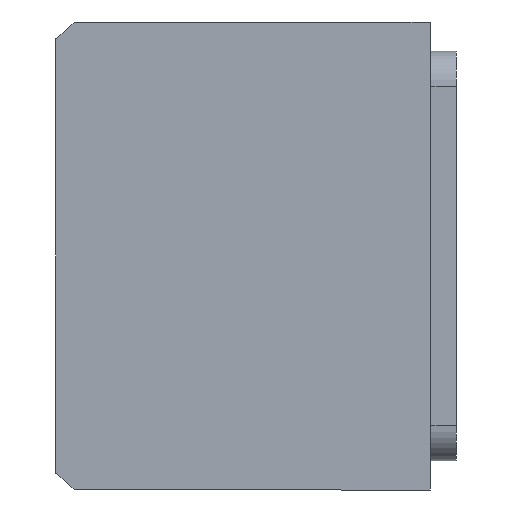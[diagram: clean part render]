
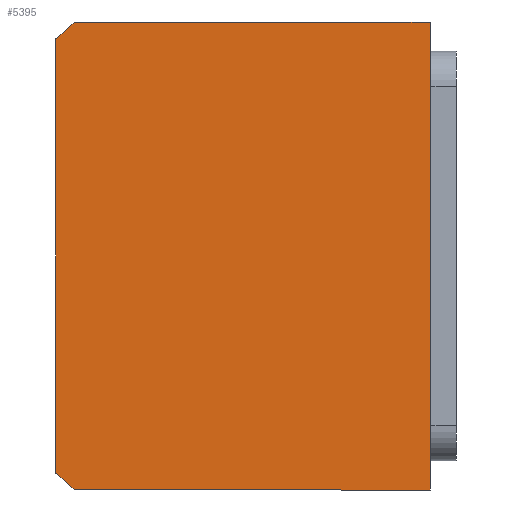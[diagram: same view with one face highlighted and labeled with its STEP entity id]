
A CAD part, front view. The second image highlights one B-rep face of the part: STEP entity #5395.
In plain terms, the highlighted planar face has unit normal (0, -1, 0) as drawn and (0, 0, -1) by its records, which use the part's own axes.
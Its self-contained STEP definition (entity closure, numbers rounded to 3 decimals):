
#133 = VERTEX_POINT ( 'NONE', #8797 ) ;
#223 = VECTOR ( 'NONE', #2976, 1000. ) ;
#392 = AXIS2_PLACEMENT_3D ( 'NONE', #1961, #7457, #2747 ) ;
#514 = CARTESIAN_POINT ( 'NONE',  ( -40., -11.507, 0. ) ) ;
#957 = CARTESIAN_POINT ( 'NONE',  ( 0., 0., 0. ) ) ;
#1123 = ORIENTED_EDGE ( 'NONE', *, *, #8438, .F. ) ;
#1142 = VERTEX_POINT ( 'NONE', #9863 ) ;
#1263 = DIRECTION ( 'NONE',  ( 0., -1., 0. ) ) ;
#1320 = CARTESIAN_POINT ( 'NONE',  ( 37.094, -75.507, 0. ) ) ;
#1473 = CARTESIAN_POINT ( 'NONE',  ( 0., -40.507, 0. ) ) ;
#1740 = PLANE ( 'NONE',  #2789 ) ;
#1800 = CIRCLE ( 'NONE', #8931, 51. ) ;
#1827 = FACE_OUTER_BOUND ( 'NONE', #5946, .T. ) ;
#1961 = CARTESIAN_POINT ( 'NONE',  ( 0., -40.507, 0. ) ) ;
#2190 = CARTESIAN_POINT ( 'NONE',  ( -40., -75.507, 0. ) ) ;
#2254 = DIRECTION ( 'NONE',  ( 1., 0., 0. ) ) ;
#2525 = DIRECTION ( 'NONE',  ( 1., 0., 0. ) ) ;
#2666 = ORIENTED_EDGE ( 'NONE', *, *, #7073, .F. ) ;
#2747 = DIRECTION ( 'NONE',  ( 1., 0., 0. ) ) ;
#2789 = AXIS2_PLACEMENT_3D ( 'NONE', #957, #3203, #2525 ) ;
#2976 = DIRECTION ( 'NONE',  ( 1., 0., 0. ) ) ;
#3155 = DIRECTION ( 'NONE',  ( -1., 0., 0. ) ) ;
#3203 = DIRECTION ( 'NONE',  ( 0., 0., 1. ) ) ;
#3816 = ORIENTED_EDGE ( 'NONE', *, *, #6150, .F. ) ;
#4135 = LINE ( 'NONE', #2190, #223 ) ;
#4276 = CARTESIAN_POINT ( 'NONE',  ( 40., -72.145, 0. ) ) ;
#4788 = ORIENTED_EDGE ( 'NONE', *, *, #7845, .F. ) ;
#5006 = VECTOR ( 'NONE', #9753, 1000. ) ;
#5015 = VECTOR ( 'NONE', #1263, 1000. ) ;
#5117 = VECTOR ( 'NONE', #3155, 1000. ) ;
#5249 = LINE ( 'NONE', #514, #5015 ) ;
#5278 = VERTEX_POINT ( 'NONE', #7019 ) ;
#5395 = ADVANCED_FACE ( 'NONE', ( #1827 ), #1740, .F. ) ;
#5540 = CARTESIAN_POINT ( 'NONE',  ( -40., -11.507, 0. ) ) ;
#5946 = EDGE_LOOP ( 'NONE', ( #7298, #4788, #2666, #6883, #1123, #3816 ) ) ;
#6150 = EDGE_CURVE ( 'NONE', #1142, #9001, #4135, .T. ) ;
#6207 = EDGE_CURVE ( 'NONE', #133, #1142, #1800, .T. ) ;
#6883 = ORIENTED_EDGE ( 'NONE', *, *, #8972, .F. ) ;
#6966 = DIRECTION ( 'NONE',  ( 0., 0., 1. ) ) ;
#7019 = CARTESIAN_POINT ( 'NONE',  ( 40., -11.507, 0. ) ) ;
#7068 = LINE ( 'NONE', #8940, #5006 ) ;
#7073 = EDGE_CURVE ( 'NONE', #5278, #7181, #8790, .T. ) ;
#7181 = VERTEX_POINT ( 'NONE', #8804 ) ;
#7298 = ORIENTED_EDGE ( 'NONE', *, *, #6207, .F. ) ;
#7457 = DIRECTION ( 'NONE',  ( 0., 0., 1. ) ) ;
#7845 = EDGE_CURVE ( 'NONE', #7181, #133, #5249, .T. ) ;
#8383 = VERTEX_POINT ( 'NONE', #4276 ) ;
#8438 = EDGE_CURVE ( 'NONE', #9001, #8383, #9285, .T. ) ;
#8790 = LINE ( 'NONE', #5540, #5117 ) ;
#8797 = CARTESIAN_POINT ( 'NONE',  ( -40., -72.145, 0. ) ) ;
#8804 = CARTESIAN_POINT ( 'NONE',  ( -40., -11.507, 0. ) ) ;
#8931 = AXIS2_PLACEMENT_3D ( 'NONE', #1473, #6966, #2254 ) ;
#8940 = CARTESIAN_POINT ( 'NONE',  ( 40., -11.507, 0. ) ) ;
#8972 = EDGE_CURVE ( 'NONE', #8383, #5278, #7068, .T. ) ;
#9001 = VERTEX_POINT ( 'NONE', #1320 ) ;
#9285 = CIRCLE ( 'NONE', #392, 51. ) ;
#9753 = DIRECTION ( 'NONE',  ( 0., 1., 0. ) ) ;
#9863 = CARTESIAN_POINT ( 'NONE',  ( -37.094, -75.507, 0. ) ) ;
